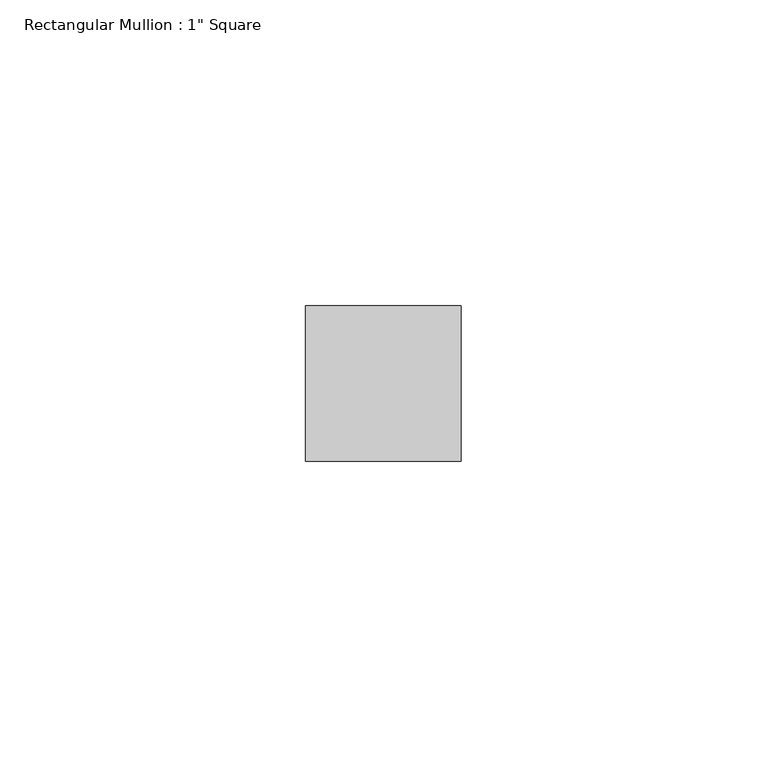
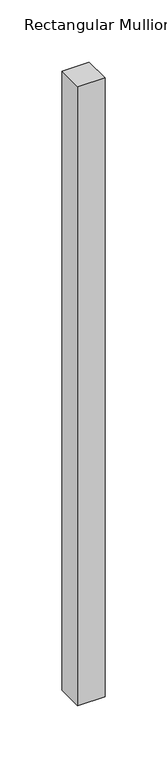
"""IFC4 building model written with IfcOpenShell, lengths in millimetres: member geometry."""

import ifcopenshell
import ifcopenshell.guid

model = None  # the IFC model being written
_history = None  # IfcOwnerHistory: only IFC2X3 demands one
_inside = {}  # id of a spatial element -> (the spatial element, [elements in it])
_under = {}  # id of a project, library or spatial element -> (it, [spatial elements below it])
_declared = {}  # id of a project -> (the project, [libraries it declares])
_typed = {}  # id of a type object -> (the type object, [elements of that type])
_made_of = {}  # id of a material, layer set ... -> (it, [elements and type objects made of it])


def new_model(schema):
    """Start an empty IFC model of exactly this schema.

    Asked for "IFC4X3", IfcOpenShell would pick the latest addendum, in which some entities
    have other attributes; the version numbers below select the first issue.
    IFC2X3 requires an IfcOwnerHistory on every rooted entity: one is made here for all.
    """
    global model, _history
    if schema == "IFC4X3":
        model = ifcopenshell.file(schema_version=(4, 3, 0, 0))
    else:
        model = ifcopenshell.file(schema=schema)
    _inside.clear()
    _under.clear()
    _declared.clear()
    _typed.clear()
    _made_of.clear()
    _history = None
    if model.schema == "IFC2X3":
        org = make("IfcOrganization", Name="unknown")
        user = make(
            "IfcPersonAndOrganization",
            ThePerson=make("IfcPerson", FamilyName="unknown"),
            TheOrganization=org,
        )
        app = make(
            "IfcApplication",
            ApplicationDeveloper=org,
            Version="unknown",
            ApplicationFullName="unknown",
            ApplicationIdentifier="unknown",
        )
        _history = make(
            "IfcOwnerHistory",
            OwningUser=user,
            OwningApplication=app,
            ChangeAction="ADDED",
            CreationDate=0,
        )
    return model


def make(cls, **values):
    """One entity of the class cls with the attributes given. An attribute that is None is left unset."""
    return model.create_entity(
        cls, **{name: value for name, value in values.items() if value is not None}
    )


def rooted(cls, **values):
    """An entity with a GlobalId (a new one), such as an element, a storey or a relation."""
    return make(cls, GlobalId=ifcopenshell.guid.new(), OwnerHistory=_history, **values)


def si_unit(unit_type, name, prefix=None):
    """IfcSIUnit, for example si_unit("LENGTHUNIT", "METRE", prefix="MILLI")."""
    return make("IfcSIUnit", UnitType=unit_type, Prefix=prefix, Name=name)


def assignment(units):
    """IfcUnitAssignment: the units of a project."""
    return None if units is None else make("IfcUnitAssignment", Units=units)


def point(xyz):
    """IfcCartesianPoint."""
    return None if xyz is None else make("IfcCartesianPoint", Coordinates=xyz)


def direction(xyz):
    """IfcDirection."""
    return None if xyz is None else make("IfcDirection", DirectionRatios=xyz)


def frame(location, z_axis=None, x_axis=None):
    """IfcAxis2Placement3D, a coordinate frame: its origin and axes. An axis left out is left unset."""
    return make(
        "IfcAxis2Placement3D",
        Location=point(location),
        Axis=direction(z_axis),
        RefDirection=direction(x_axis),
    )


def origin():
    """The frame at (0, 0, 0) with its axes left unset."""
    return frame((0.0, 0.0, 0.0))


def place(relative_to, where):
    """IfcLocalPlacement: puts the frame where relative to a parent placement (None: the world)."""
    return make(
        "IfcLocalPlacement", PlacementRelTo=relative_to, RelativePlacement=where
    )


def context(
    kind, dimensions, precision=None, world=None, true_north=None, identifier=None
):
    """IfcGeometricRepresentationContext, for example the 3D "Model" context."""
    return make(
        "IfcGeometricRepresentationContext",
        ContextIdentifier=identifier,
        ContextType=kind,
        CoordinateSpaceDimension=dimensions,
        Precision=precision,
        WorldCoordinateSystem=world,
        TrueNorth=true_north,
    )


def project(units=None, contexts=None):
    """IfcProject with its units and contexts."""
    return rooted(
        "IfcProject",
        Name="project",
        RepresentationContexts=contexts,
        UnitsInContext=assignment(units),
    )


def spatial(cls, under=None, at=None, **own):
    """A site, building, storey or space (cls), placed at a placement, below another one or the project."""
    s = rooted(cls, ObjectPlacement=at, **own)
    if under is not None:
        _under.setdefault(under.id(), (under, []))[1].append(s)
    return s


def polyline(points):
    """IfcPolyline through the points."""
    return make("IfcPolyline", Points=[point(p) for p in points])


def outline(outer, holes=None, kind="AREA"):
    """IfcArbitraryClosedProfileDef: a profile drawn as a closed curve; with holes, ...WithVoids."""
    if holes is None:
        return make("IfcArbitraryClosedProfileDef", ProfileType=kind, OuterCurve=outer)
    return make(
        "IfcArbitraryProfileDefWithVoids",
        ProfileType=kind,
        OuterCurve=outer,
        InnerCurves=holes,
    )


def extrude(swept, where, along, depth):
    """IfcExtrudedAreaSolid: the profile swept, set in the frame where, extruded along a direction by depth."""
    return make(
        "IfcExtrudedAreaSolid",
        SweptArea=swept,
        Position=where,
        ExtrudedDirection=direction(along),
        Depth=depth,
    )


def shape(context_of_items, identifier, shape_type, items):
    """IfcShapeRepresentation: the items that make up one representation, for example the "Body"."""
    return make(
        "IfcShapeRepresentation",
        ContextOfItems=context_of_items,
        RepresentationIdentifier=identifier,
        RepresentationType=shape_type,
        Items=items,
    )


def source(mapping_origin, context_of_items, identifier, shape_type, items):
    """IfcRepresentationMap: a shape defined once, which mapped items show again and again."""
    return make(
        "IfcRepresentationMap",
        MappingOrigin=mapping_origin,
        MappedRepresentation=shape(context_of_items, identifier, shape_type, items),
    )


def transform(
    local_origin,
    x_axis=None,
    y_axis=None,
    z_axis=None,
    scale=None,
    scale2=None,
    scale3=None,
    uniform=True,
):
    """IfcCartesianTransformationOperator3D, or its non-uniform kind. x_axis, y_axis, z_axis: its Axis1, 2, 3."""
    if uniform:
        return make(
            "IfcCartesianTransformationOperator3D",
            Axis1=direction(x_axis),
            Axis2=direction(y_axis),
            LocalOrigin=point(local_origin),
            Scale=scale,
            Axis3=direction(z_axis),
        )
    return make(
        "IfcCartesianTransformationOperator3DnonUniform",
        Axis1=direction(x_axis),
        Axis2=direction(y_axis),
        LocalOrigin=point(local_origin),
        Scale=scale,
        Axis3=direction(z_axis),
        Scale2=scale2,
        Scale3=scale3,
    )


def mapped(mapping_source, mapping_target):
    """IfcMappedItem: shows the shape of a source again, moved by a transform."""
    return make(
        "IfcMappedItem", MappingSource=mapping_source, MappingTarget=mapping_target
    )


def made_of(thing, what):
    """Note that an element or type object is made of a material, layer set ...; save() writes the relation."""
    if what is not None:
        _made_of.setdefault(what.id(), (what, []))[1].append(thing)
    return thing


def element(
    cls,
    number,
    at=None,
    inside=None,
    cuts=None,
    type_object=None,
    material=None,
    context=None,
    identifier="Body",
    shape_type=None,
    held_by="IfcProductDefinitionShape",
    body=None,
    shapes=None,
    **own,
):
    """One element of the class cls, such as IfcWall. Its Tag is "e" and its number.

    at: its placement. inside: the storey or other place that contains it. cuts: it is an
    opening in that element (IfcRelVoidsElement). A single representation is given by context,
    identifier, shape_type and body (its items); several are given by shapes. held_by: the class
    of the entity that holds the representations. save() writes the other relations.
    """
    e = rooted(cls, Tag="e%d" % number, ObjectPlacement=at, **own)
    if body is not None:
        shapes = [shape(context, identifier, shape_type, body)]
    if shapes is not None:
        e.Representation = make(held_by, Representations=shapes)
    if inside is not None:
        _inside.setdefault(inside.id(), (inside, []))[1].append(e)
    if cuts is not None:
        rooted(
            "IfcRelVoidsElement", RelatingBuildingElement=cuts, RelatedOpeningElement=e
        )
    if type_object is not None:
        _typed.setdefault(type_object.id(), (type_object, []))[1].append(e)
    return made_of(e, material)


def aggregate(whole, parts):
    """IfcRelAggregates: a whole, such as a stair, and the parts it consists of."""
    return rooted("IfcRelAggregates", RelatingObject=whole, RelatedObjects=parts)


def save(model, path):
    """Write the relations noted so far, then the file.

    IfcRelAggregates (storeys below a building ...), IfcRelContainedInSpatialStructure (elements
    in a storey), IfcRelDefinesByType, IfcRelAssociatesMaterial and IfcRelDeclares: one each for
    every whole, place, type object, material and project.
    """
    for whole, parts in _under.values():
        aggregate(whole, parts)
    for where, things in _inside.values():
        rooted(
            "IfcRelContainedInSpatialStructure",
            RelatedElements=things,
            RelatingStructure=where,
        )
    for kind, things in _typed.values():
        rooted("IfcRelDefinesByType", RelatedObjects=things, RelatingType=kind)
    for what, things in _made_of.values():
        rooted("IfcRelAssociatesMaterial", RelatedObjects=things, RelatingMaterial=what)
    for by, libraries in _declared.values():
        rooted("IfcRelDeclares", RelatingContext=by, RelatedDefinitions=libraries)
    model.write(path)


def member_e3fb43e4(model_context):
    return source(origin(), model_context, "Body", "SweptSolid", [
        extrude(outline(polyline([(0.0, -19.05), (0.0, -44.45), (-25.4, -44.45), (-25.4, -19.05), (0.0, -19.05)])), frame((0.0, 0.0, -609.6), z_axis=(0.0, 0.0, 1.0), x_axis=(1.0, 0.0, 0.0)), (0.0, 0.0, 1.0), 609.6),
    ])


if __name__ == "__main__":
    model = new_model("IFC4")
    model_context = context("Model", 3, world=origin())
    ifc_project = project(units=[si_unit("LENGTHUNIT", "METRE", prefix="MILLI")], contexts=[model_context])
    site = spatial("IfcSite", under=ifc_project)
    building = spatial("IfcBuilding", under=site)
    placement = place(None, origin())
    member_shape = member_e3fb43e4(model_context)
    element("IfcMember", 1, ObjectType="Rectangular Mullion : 1\" Square", at=placement, inside=building, context=model_context, shape_type="MappedRepresentation", body=[
        mapped(member_shape, transform((0.0, 0.0, 0.0), x_axis=(1.0, 0.0, 0.0), y_axis=(0.0, 1.0, 0.0), z_axis=(0.0, 0.0, 1.0))),
    ])
    save(model, "model.ifc")
